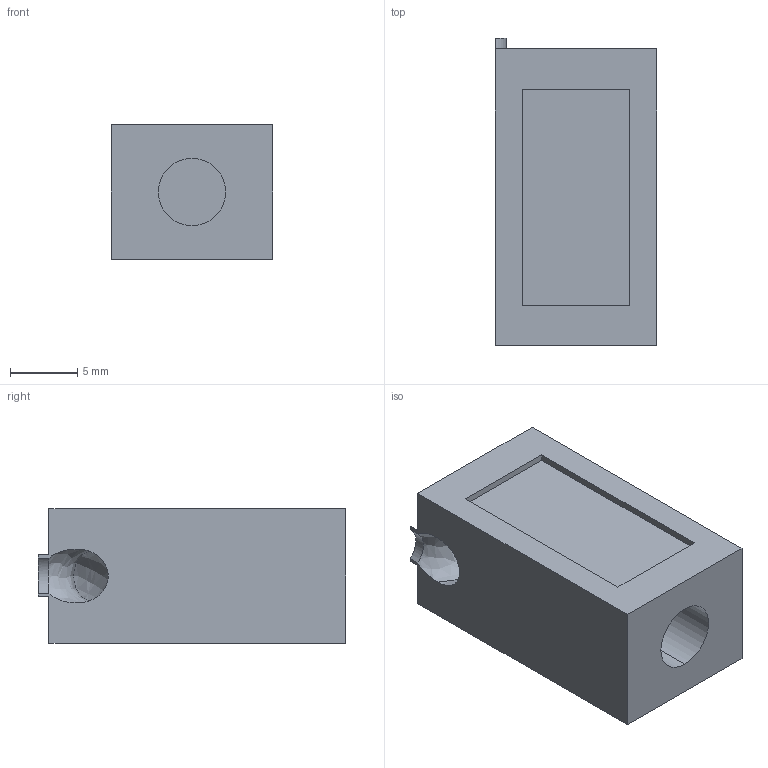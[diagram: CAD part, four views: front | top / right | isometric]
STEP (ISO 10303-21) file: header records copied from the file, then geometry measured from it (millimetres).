
FILE_DESCRIPTION (( 'STEP AP214' ), '1' );
FILE_NAME ('BR1060-12x10x22x1,6.STEP', '2020-06-22T12:44:54', ( '' ), ( '' ), 'SwSTEP 2.0', 'SolidWorks 2018', '' );
FILE_SCHEMA (( 'AUTOMOTIVE_DESIGN' ));
Length unit declared in the file: millimetre
Products named in the file (1): BR1060-12x10x22x1,6
Bounding box: 12 x 22.8 x 10 mm (x, y, z)
Volume: 2167.1 mm3; surface area: 1539.9 mm2
Topology: 1 solids, 1 shells, 24 faces, 60 edges, 40 vertices
Faces by surface type: plane 18, bspline 3, cylinder 3
Entity records: 1429 total; most frequent: CARTESIAN_POINT 837, ORIENTED_EDGE 120, DIRECTION 101, EDGE_CURVE 60, LINE 45, VECTOR 45, VERTEX_POINT 40, AXIS2_PLACEMENT_3D 28
